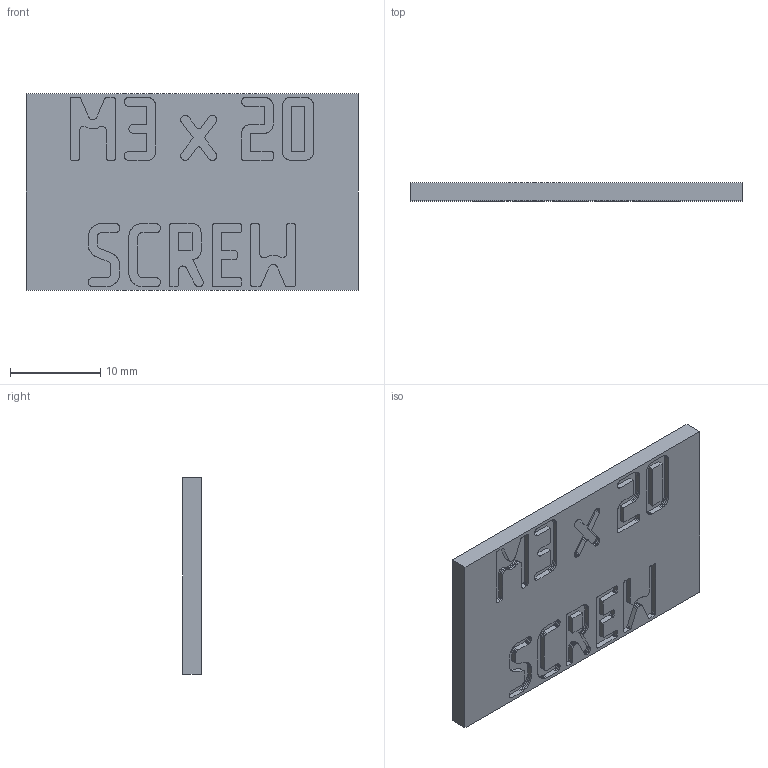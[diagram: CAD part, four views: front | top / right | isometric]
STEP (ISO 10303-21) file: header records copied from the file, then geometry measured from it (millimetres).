
FILE_DESCRIPTION(('Open CASCADE Model'),'2;1');
FILE_NAME('Open CASCADE Shape Model','2026-11-03T17:09:37',('Author'),( 'Open CASCADE'),'Open CASCADE STEP processor 8.0','build123d', 'Unknown');
FILE_SCHEMA(('AUTOMOTIVE_DESIGN { 1 0 10303 214 1 1 1 1 }'));
Length unit declared in the file: millimetre
Products named in the file (2): =>[0:1:1:2]; COMPOUND
Assembly tree (1 placements, depth 2):
  =>[0:1:1:2]
    COMPOUND
Bounding box: 36.8 x 2 x 21.8 mm (x, y, z)
Volume: 1516.5 mm3; surface area: 2011.1 mm2
Topology: 1 solids, 1 shells, 1109 faces, 3285 edges, 2190 vertices
Faces by surface type: plane 1109
Entity records: 79012 total; most frequent: CARTESIAN_POINT 13156, DIRECTION 12077, LINE 9855, VECTOR 9855, ORIENTED_EDGE 6570, PCURVE 6570, DEFINITIONAL_REPRESENTATION 6570, EDGE_CURVE 3285
